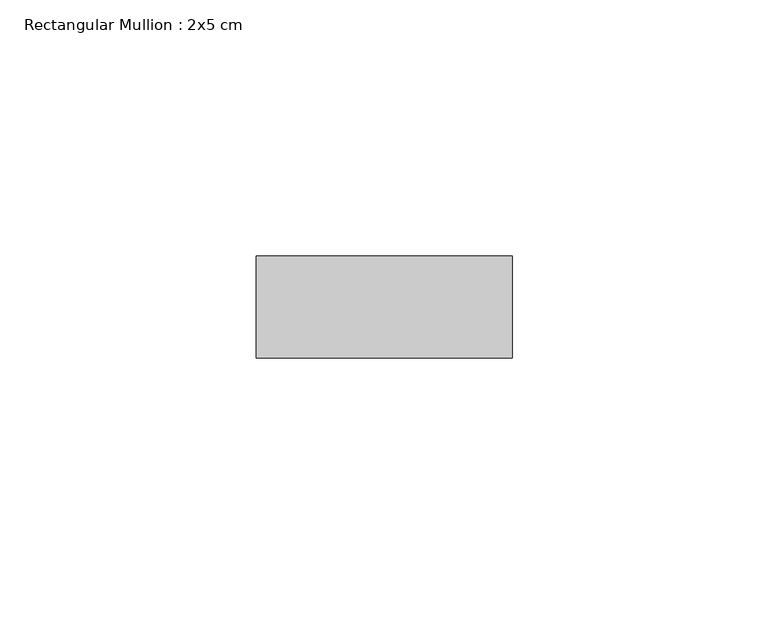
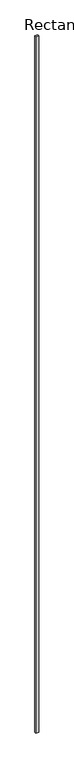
"""IFC4 building model written with IfcOpenShell, lengths in millimetres: member geometry, Rectangular Mullion : 2x5 cm."""

from ifc_helpers import new_model, si_unit, frame, origin, place, context, project, spatial, polyline, outline, extrude, source, transform, mapped, element, save


def rectangular_mullion_2x5_cm_6e42572f(model_context):
    return source(origin(), model_context, "Body", "SweptSolid", [
        extrude(outline(polyline([(50.0, 20.0), (50.0, 0.0), (0.0, 0.0), (0.0, 20.0), (50.0, 20.0)])), frame((0.0, 0.0, -12062.5), z_axis=(0.0, 0.0, 1.0), x_axis=(1.0, 0.0, 0.0)), (0.0, 0.0, 1.0), 12062.5),
    ])


if __name__ == "__main__":
    model = new_model("IFC4")
    model_context = context("Model", 3, world=origin())
    ifc_project = project(units=[si_unit("LENGTHUNIT", "METRE", prefix="MILLI")], contexts=[model_context])
    site = spatial("IfcSite", under=ifc_project)
    building = spatial("IfcBuilding", under=site)
    placement = place(None, origin())
    rectangular_mullion_2x5_cm_shape = rectangular_mullion_2x5_cm_6e42572f(model_context)
    element("IfcMember", 1, ObjectType="Rectangular Mullion : 2x5 cm", at=placement, inside=building, context=model_context, shape_type="MappedRepresentation", body=[
        mapped(rectangular_mullion_2x5_cm_shape, transform((0.0, 0.0, 0.0), x_axis=(1.0, 0.0, 0.0), y_axis=(0.0, 1.0, 0.0), z_axis=(0.0, 0.0, 1.0))),
    ])
    save(model, "model.ifc")
